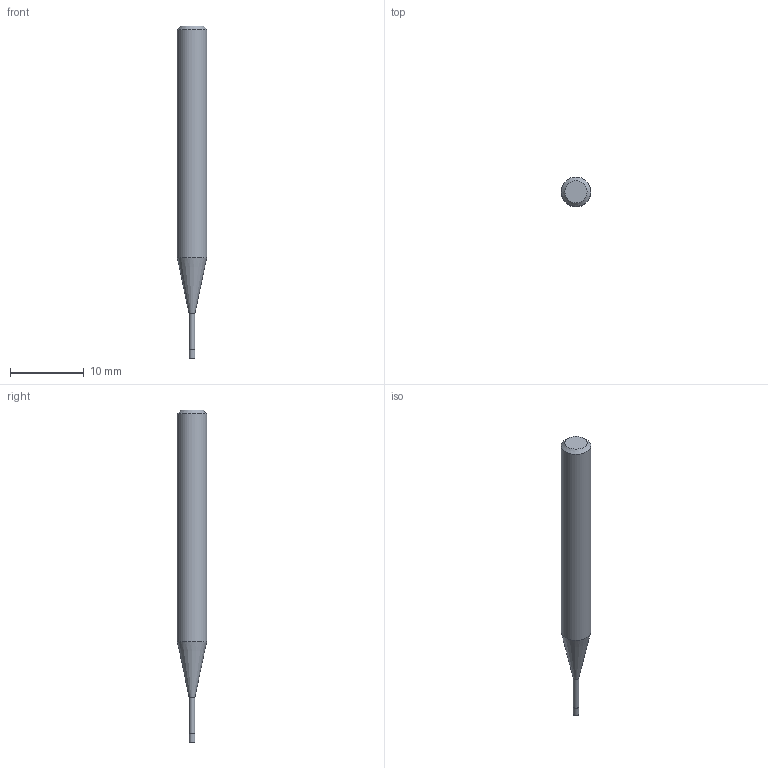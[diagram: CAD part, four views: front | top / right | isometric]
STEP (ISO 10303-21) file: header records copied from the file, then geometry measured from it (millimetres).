
FILE_DESCRIPTION((''),'2;1');
FILE_NAME('C:\Users\nsx150\AppData\Local\Temp\Mastercam 2021\17T8Q8S9EB\TEMP.step','2021-04-21T14:25:17',(''),(''),'STEP Write','Mastercam 2021 ... CNC Software, Inc.','');
FILE_SCHEMA(('AUTOMOTIVE_DESIGN'));
Length unit declared in the file: millimetre
Products named in the file (1): None
Bounding box: 4 x 4 x 45 mm (x, y, z)
Volume: 434.8 mm3; surface area: 477.1 mm2
Topology: 2 solids, 2 shells, 9 faces, 12 edges, 7 vertices
Faces by surface type: plane 4, cylinder 3, cone 2
Full cylindrical faces by diameter (mm): 0.76 x1, 0.8 x1, 4 x1
Entity records: 211 total; most frequent: DIRECTION 36, CARTESIAN_POINT 25, AXIS2_PLACEMENT_3D 18, ORIENTED_EDGE 14, EDGE_LOOP 14, STYLED_ITEM 12, ADVANCED_FACE 9, FACE_BOUND 8
